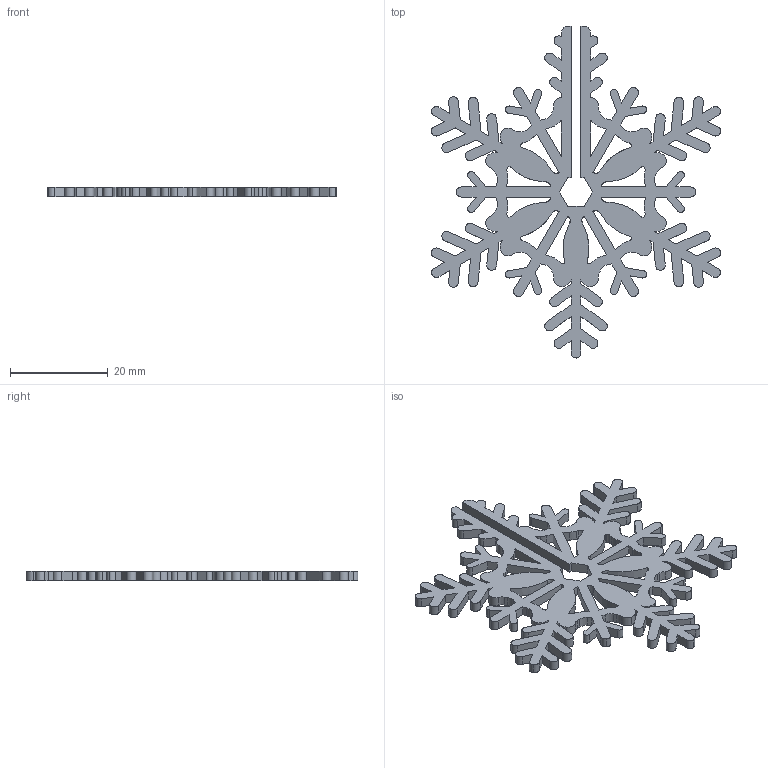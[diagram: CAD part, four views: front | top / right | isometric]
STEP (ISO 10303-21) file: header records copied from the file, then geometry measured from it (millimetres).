
FILE_DESCRIPTION(/* description */ ('','CAx-IF Rec.Pracs.---Representation and Presentation of Product Manufacturing Information (PMI)---4.0---2014-10-13'),/* implementation_level */ '2;1');
FILE_NAME(/* name */ 'Schneeflocke_01A_.step',/* time_stamp */ '2024-12-22T19:48:16+01:00',/* author */ (''),/* organization */ (''),/* preprocessor_version */ 'ST-DEVELOPER v20',/* originating_system */ 'Autodesk Translation Framework v13.20.0.188',/* authorisation */ '');
FILE_SCHEMA (('AP242_MANAGED_MODEL_BASED_3D_ENGINEERING_MIM_LF { 1 0 10303 442 1 1 4 }'));
Length unit declared in the file: millimetre
Products named in the file (1): 01_Schneeflocke_01A
Bounding box: 59.19 x 68 x 2 mm (x, y, z)
Volume: 2888 mm3; surface area: 5175.6 mm2
Topology: 1 solids, 1 shells, 425 faces, 1269 edges, 846 vertices
Faces by surface type: plane 261, cylinder 144, bspline 20
Entity records: 15002 total; most frequent: CARTESIAN_POINT 3401, ORIENTED_EDGE 2538, DIRECTION 2309, EDGE_CURVE 1269, LINE 921, VECTOR 921, VERTEX_POINT 846, AXIS2_PLACEMENT_3D 694
